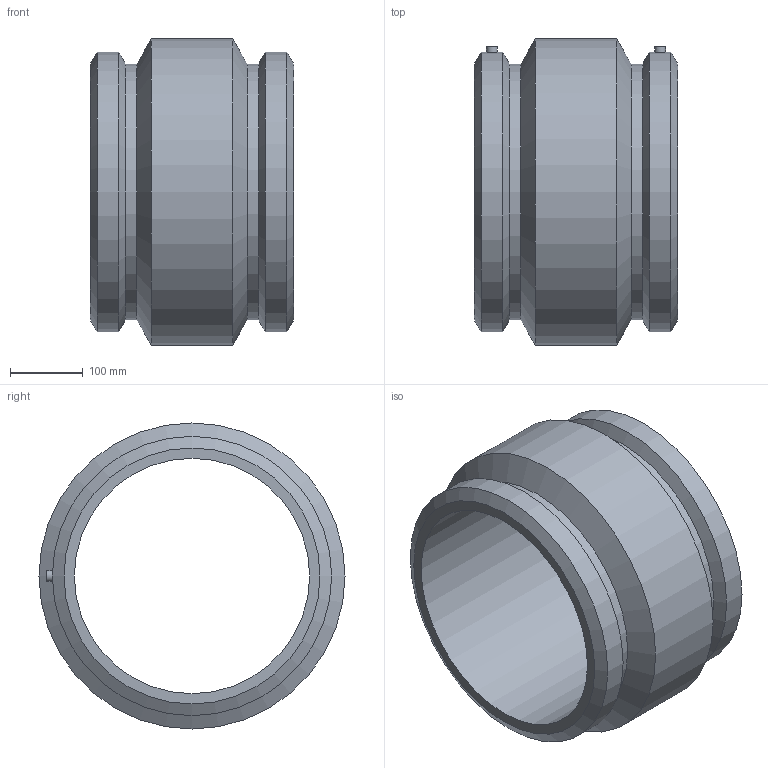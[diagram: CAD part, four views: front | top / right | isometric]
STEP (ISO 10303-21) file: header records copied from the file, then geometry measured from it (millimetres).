
FILE_DESCRIPTION(/* description */ ('PLASSON COUPLER 12''''DIPS'),/* implementation_level */ '2;1');
FILE_NAME(/* name */ 'C:\Dropbox\KIMPROJECTS-Inventor 2019\99-16-3568-Processing Inch\ASTM ElectroFusion 2021\5901D\5901D004120.ipt.stp',/* time_stamp */ '2021-08-30T09:49:20+03:00',/* author */ ('KIM'),/* organization */ (''),/* preprocessor_version */ 'ST-DEVELOPER v17.2',/* originating_system */ 'Autodesk Inventor 2019',/* authorisation */ '');
FILE_SCHEMA (('AUTOMOTIVE_DESIGN { 1 0 10303 214 3 1 1 }'));
Length unit declared in the file: inch
Products named in the file (1): 5901D004120
Bounding box: 279.4 x 420.62 x 420.62 mm (x, y, z)
Volume: 11119424.7 mm3; surface area: 751987.6 mm2
Topology: 1 solids, 1 shells, 28 faces, 66 edges, 46 vertices
Faces by surface type: cylinder 12, plane 8, cone 6, bspline 2
Full cylindrical faces by diameter (mm): 4 x2, 10 x2, 15 x2, 323.4 x1, 351.82 x2, 383.804 x2, 420.624 x1
Entity records: 1250 total; most frequent: CARTESIAN_POINT 536, DIRECTION 146, ORIENTED_EDGE 132, EDGE_CURVE 66, AXIS2_PLACEMENT_3D 63, VERTEX_POINT 46, CIRCLE 36, EDGE_LOOP 36
